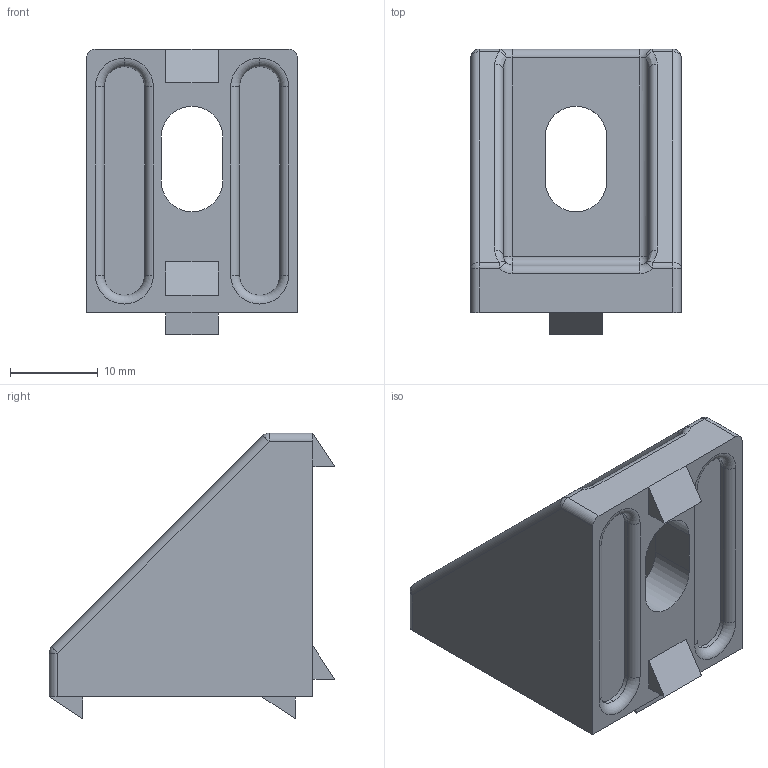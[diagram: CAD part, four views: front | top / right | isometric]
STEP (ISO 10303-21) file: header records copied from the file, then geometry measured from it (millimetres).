
FILE_DESCRIPTION (( 'STEP AP203' ), '1' );
FILE_NAME ('DCB3025-6.STEP', '2018-07-17T00:45:47', ( '' ), ( '' ), 'SwSTEP 2.0', 'SolidWorks 2012', '' );
FILE_SCHEMA (( 'CONFIG_CONTROL_DESIGN' ));
Length unit declared in the file: millimetre
Products named in the file (1): DCB3025-6
Bounding box: 24 x 32.5 x 32.5 mm (x, y, z)
Volume: 7908.6 mm3; surface area: 4855.4 mm2
Topology: 1 solids, 1 shells, 118 faces, 278 edges, 162 vertices
Faces by surface type: cylinder 44, plane 44, torus 16, sphere 10, bspline 4
Entity records: 3449 total; most frequent: CARTESIAN_POINT 645, DIRECTION 614, ORIENTED_EDGE 544, EDGE_CURVE 272, AXIS2_PLACEMENT_3D 235, VERTEX_POINT 162, LINE 144, VECTOR 144
